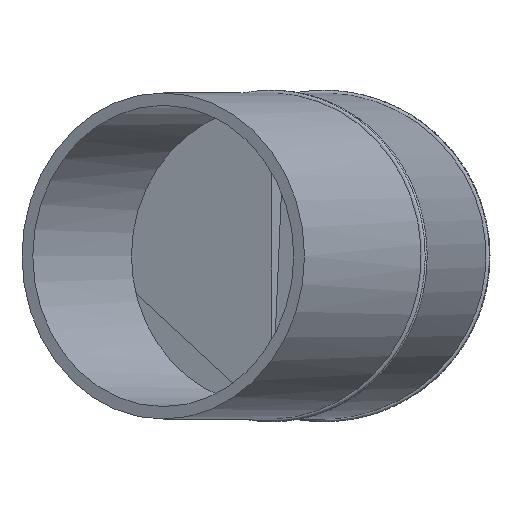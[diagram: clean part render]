
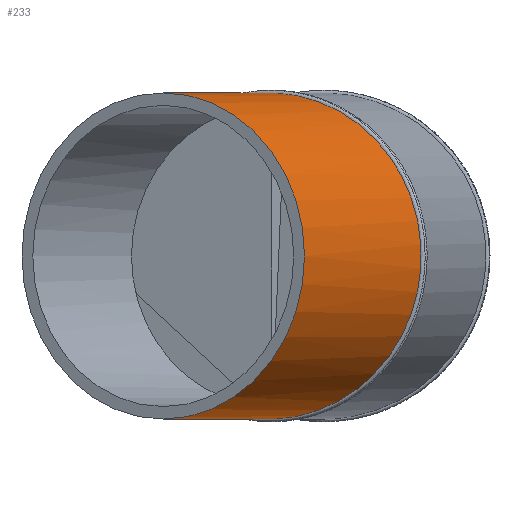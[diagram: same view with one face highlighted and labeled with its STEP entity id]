
A CAD part, front view. The second image highlights one B-rep face of the part: STEP entity #233.
In plain terms, the highlighted cylindrical face has radius 250 mm (diameter 500 mm), a full revolution.
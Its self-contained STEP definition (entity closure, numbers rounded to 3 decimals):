
#37=B_SPLINE_CURVE_WITH_KNOTS('',3,(#396,#397,#398,#399,#400,#401,#402,
#403,#404,#405,#406,#407,#408,#409,#410,#411,#412,#413,#414,#415,#416,#417,
#418,#419,#420,#421,#422,#423,#424,#425,#426,#427,#428,#429,#430,#431,#432,
#433,#434,#435,#436,#437,#438,#439,#440,#441,#442,#443,#444,#445,#446,#447,
#448,#449,#450,#451,#452,#453,#454,#455,#456,#457,#458,#459,#460,#461,#462,
#463,#464,#465,#466,#467,#468,#469,#470,#471,#472,#473,#474,#475,#476,#477,
#478,#479,#480,#481,#482,#483,#484,#485,#486,#487,#488,#489,#490),
 .UNSPECIFIED.,.T.,.F.,(1,1,1,1,1,1,1,1,1,1,1,1,1,1,1,1,1,1,1,1,1,1,1,1,
1,1,1,1,1,1,1,1,1,1,1,1,1,1,1,1,1,1,1,1,1,1,1,1,1,1,1,1,1,1,1,1,1,1,1,1,
1,1,1,1,1,1,1,1,1,1,1,1,1,1,1,1,1,1,1,1,1,1,1,1,1,1,1,1,1,1,1,1,1,1,1,1,
1,1,1),(-0.037,-0.025,-0.012,0.,
0.012,0.025,0.05,0.062,
0.074,0.099,0.124,0.149,
0.161,0.173,0.198,0.223,
0.235,0.248,0.272,0.297,
0.309,0.322,0.334,0.347,0.359,
0.371,0.396,0.421,0.446,
0.47,0.483,0.495,0.507,
0.52,0.545,0.569,0.582,
0.594,0.606,0.619,0.631,
0.644,0.656,0.668,0.693,0.705,
0.718,0.743,0.767,0.78,
0.792,0.817,0.842,0.866,
0.879,0.891,0.903,0.916,
0.941,0.965,0.99,1.015,
1.027,1.04,1.052,1.064,1.089,
1.114,1.126,1.139,1.151,1.163,
1.176,1.188,1.213,1.238,1.25,
1.262,1.287,1.312,1.324,1.337,
1.361,1.386,1.411,1.423,1.436,
1.448,1.46,1.485,1.51,1.535,
1.547,1.559,1.572,1.584,1.596,
1.609,1.634),.UNSPECIFIED.);
#46=CYLINDRICAL_SURFACE('',#283,250.);
#78=ORIENTED_EDGE('',*,*,#130,.T.);
#79=ORIENTED_EDGE('',*,*,#123,.F.);
#123=EDGE_CURVE('',#149,#149,#169,.T.);
#130=EDGE_CURVE('',#156,#156,#37,.T.);
#149=VERTEX_POINT('',#381);
#156=VERTEX_POINT('',#491);
#169=CIRCLE('',#275,250.);
#175=EDGE_LOOP('',(#78));
#176=EDGE_LOOP('',(#79));
#203=FACE_BOUND('',#175,.T.);
#204=FACE_BOUND('',#176,.T.);
#233=ADVANCED_FACE('',(#203,#204),#46,.T.);
#275=AXIS2_PLACEMENT_3D('',#380,#312,#313);
#283=AXIS2_PLACEMENT_3D('',#395,#328,#329);
#312=DIRECTION('',(0.,1.,0.));
#313=DIRECTION('',(-1.,0.,0.));
#328=DIRECTION('',(0.,1.,0.));
#329=DIRECTION('',(-1.,0.,0.));
#380=CARTESIAN_POINT('',(1180.48,177.5,0.));
#381=CARTESIAN_POINT('',(930.48,177.5,0.));
#395=CARTESIAN_POINT('',(1180.48,-188.326,0.));
#396=CARTESIAN_POINT('',(930.684,-114.492,-12.359));
#397=CARTESIAN_POINT('',(930.378,-114.452,-0.005));
#398=CARTESIAN_POINT('',(930.685,-114.492,12.381));
#399=CARTESIAN_POINT('',(931.905,-114.653,28.8));
#400=CARTESIAN_POINT('',(934.347,-114.973,45.137));
#401=CARTESIAN_POINT('',(937.978,-115.451,61.187));
#402=CARTESIAN_POINT('',(942.409,-116.033,77.078));
#403=CARTESIAN_POINT('',(949.375,-116.948,96.403));
#404=CARTESIAN_POINT('',(960.017,-118.347,118.738));
#405=CARTESIAN_POINT('',(970.614,-119.739,136.288));
#406=CARTESIAN_POINT('',(980.144,-120.992,149.72));
#407=CARTESIAN_POINT('',(990.241,-122.319,162.558));
#408=CARTESIAN_POINT('',(1003.913,-124.116,177.541));
#409=CARTESIAN_POINT('',(1018.96,-126.094,191.12));
#410=CARTESIAN_POINT('',(1031.833,-127.787,201.133));
#411=CARTESIAN_POINT('',(1045.275,-129.554,210.564));
#412=CARTESIAN_POINT('',(1062.804,-131.859,221.027));
#413=CARTESIAN_POINT('',(1081.359,-134.3,229.765));
#414=CARTESIAN_POINT('',(1096.59,-136.304,235.611));
#415=CARTESIAN_POINT('',(1108.238,-137.836,239.44));
#416=CARTESIAN_POINT('',(1120.073,-139.393,242.696));
#417=CARTESIAN_POINT('',(1132.012,-140.964,245.358));
#418=CARTESIAN_POINT('',(1144.07,-142.551,247.436));
#419=CARTESIAN_POINT('',(1160.32,-144.69,249.42));
#420=CARTESIAN_POINT('',(1180.669,-147.369,250.401));
#421=CARTESIAN_POINT('',(1205.216,-150.601,249.173));
#422=CARTESIAN_POINT('',(1229.192,-153.758,245.605));
#423=CARTESIAN_POINT('',(1248.786,-156.339,240.726));
#424=CARTESIAN_POINT('',(1264.202,-158.37,235.67));
#425=CARTESIAN_POINT('',(1275.664,-159.88,231.28));
#426=CARTESIAN_POINT('',(1286.89,-161.359,226.333));
#427=CARTESIAN_POINT('',(1301.488,-163.283,219.03));
#428=CARTESIAN_POINT('',(1319.117,-165.607,208.521));
#429=CARTESIAN_POINT('',(1335.557,-167.773,196.389));
#430=CARTESIAN_POINT('',(1348.021,-169.417,185.69));
#431=CARTESIAN_POINT('',(1356.939,-170.593,177.235));
#432=CARTESIAN_POINT('',(1365.426,-171.712,168.36));
#433=CARTESIAN_POINT('',(1373.492,-172.775,159.05));
#434=CARTESIAN_POINT('',(1381.094,-173.777,149.347));
#435=CARTESIAN_POINT('',(1388.191,-174.714,139.307));
#436=CARTESIAN_POINT('',(1394.796,-175.585,128.916));
#437=CARTESIAN_POINT('',(1402.937,-176.658,114.592));
#438=CARTESIAN_POINT('',(1409.966,-177.586,99.773));
#439=CARTESIAN_POINT('',(1415.915,-178.37,84.387));
#440=CARTESIAN_POINT('',(1421.064,-179.049,68.819));
#441=CARTESIAN_POINT('',(1426.019,-179.703,49.078));
#442=CARTESIAN_POINT('',(1429.033,-180.101,28.951));
#443=CARTESIAN_POINT('',(1430.263,-180.263,12.626));
#444=CARTESIAN_POINT('',(1430.688,-180.319,-3.882));
#445=CARTESIAN_POINT('',(1429.694,-180.188,-24.409));
#446=CARTESIAN_POINT('',(1426.062,-179.709,-48.918));
#447=CARTESIAN_POINT('',(1421.06,-179.049,-68.848));
#448=CARTESIAN_POINT('',(1415.873,-178.365,-84.505));
#449=CARTESIAN_POINT('',(1411.425,-177.778,-95.993));
#450=CARTESIAN_POINT('',(1406.419,-177.118,-107.25));
#451=CARTESIAN_POINT('',(1398.984,-176.137,-121.96));
#452=CARTESIAN_POINT('',(1388.411,-174.743,-139.526));
#453=CARTESIAN_POINT('',(1373.64,-172.794,-159.343));
#454=CARTESIAN_POINT('',(1357.243,-170.633,-177.344));
#455=CARTESIAN_POINT('',(1342.216,-168.651,-190.936));
#456=CARTESIAN_POINT('',(1329.387,-166.96,-200.939));
#457=CARTESIAN_POINT('',(1319.328,-165.634,-208.018));
#458=CARTESIAN_POINT('',(1308.953,-164.267,-214.58));
#459=CARTESIAN_POINT('',(1294.74,-162.394,-222.624));
#460=CARTESIAN_POINT('',(1276.197,-159.95,-231.384));
#461=CARTESIAN_POINT('',(1256.996,-157.421,-238.248));
#462=CARTESIAN_POINT('',(1241.211,-155.341,-242.615));
#463=CARTESIAN_POINT('',(1229.268,-153.768,-245.295));
#464=CARTESIAN_POINT('',(1217.219,-152.182,-247.387));
#465=CARTESIAN_POINT('',(1205.046,-150.579,-248.891));
#466=CARTESIAN_POINT('',(1192.825,-148.969,-249.795));
#467=CARTESIAN_POINT('',(1176.534,-146.825,-250.202));
#468=CARTESIAN_POINT('',(1156.081,-144.132,-249.208));
#469=CARTESIAN_POINT('',(1135.926,-141.48,-246.236));
#470=CARTESIAN_POINT('',(1119.941,-139.376,-242.663));
#471=CARTESIAN_POINT('',(1104.253,-137.312,-238.337));
#472=CARTESIAN_POINT('',(1085.212,-134.807,-231.559));
#473=CARTESIAN_POINT('',(1066.909,-132.399,-222.973));
#474=CARTESIAN_POINT('',(1052.725,-130.534,-215.009));
#475=CARTESIAN_POINT('',(1038.827,-128.706,-206.282));
#476=CARTESIAN_POINT('',(1022.369,-126.542,-194.171));
#477=CARTESIAN_POINT('',(1004.033,-124.131,-177.675));
#478=CARTESIAN_POINT('',(990.233,-122.318,-162.555));
#479=CARTESIAN_POINT('',(980.065,-120.981,-149.615));
#480=CARTESIAN_POINT('',(972.952,-120.046,-139.58));
#481=CARTESIAN_POINT('',(966.339,-119.177,-129.206));
#482=CARTESIAN_POINT('',(958.18,-118.105,-114.895));
#483=CARTESIAN_POINT('',(949.358,-116.946,-96.364));
#484=CARTESIAN_POINT('',(940.972,-115.844,-73.07));
#485=CARTESIAN_POINT('',(935.954,-115.185,-53.157));
#486=CARTESIAN_POINT('',(933.114,-114.812,-36.895));
#487=CARTESIAN_POINT('',(931.597,-114.612,-24.655));
#488=CARTESIAN_POINT('',(930.684,-114.492,-12.359));
#489=CARTESIAN_POINT('',(930.378,-114.452,-0.005));
#490=CARTESIAN_POINT('',(930.685,-114.492,12.381));
#491=CARTESIAN_POINT('',(930.48,-114.465,0.));
